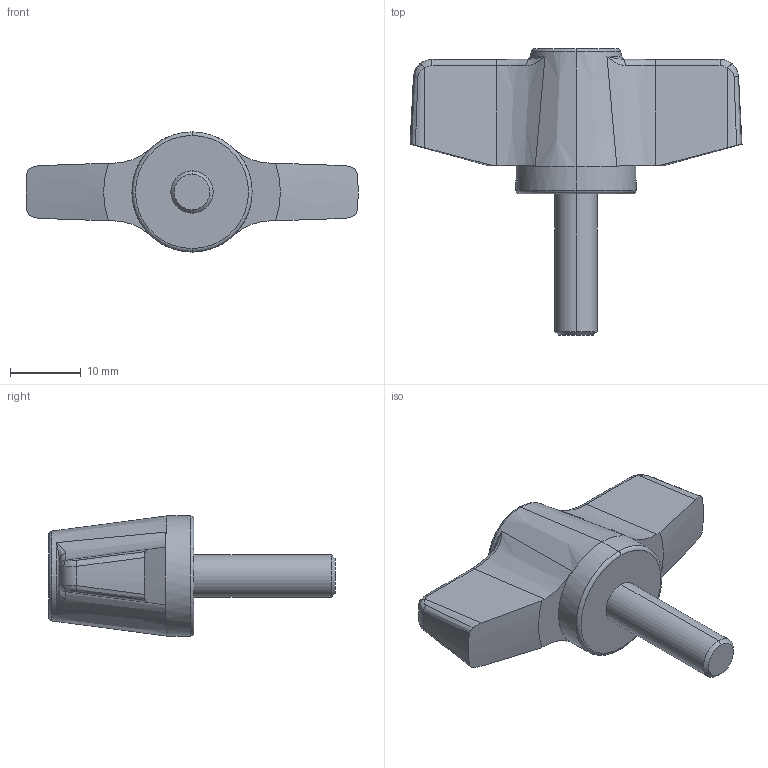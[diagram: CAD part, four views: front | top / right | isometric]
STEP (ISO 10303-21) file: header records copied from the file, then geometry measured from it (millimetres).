
FILE_DESCRIPTION (( 'STEP AP203' ), '1' );
FILE_NAME ('wn715-3_m6x20.step', '2007-01-19T12:37:42', ( 'Magnus Fahlstrom' ), ( '' ), 'SwSTEP 2.0', 'SolidWorks 2007', '' );
FILE_SCHEMA (( 'CONFIG_CONTROL_DESIGN' ));
Length unit declared in the file: millimetre
Products named in the file (1): wn715-3_m6x20
Bounding box: 46.97 x 40.5 x 17 mm (x, y, z)
Volume: 7064 mm3; surface area: 2869.7 mm2
Topology: 1 solids, 1 shells, 66 faces, 158 edges, 92 vertices
Faces by surface type: cone 16, bspline 16, torus 12, plane 12, cylinder 10
Entity records: 2375 total; most frequent: CARTESIAN_POINT 897, ORIENTED_EDGE 308, DIRECTION 280, EDGE_CURVE 154, AXIS2_PLACEMENT_3D 123, VERTEX_POINT 92, CIRCLE 72, EDGE_LOOP 68
